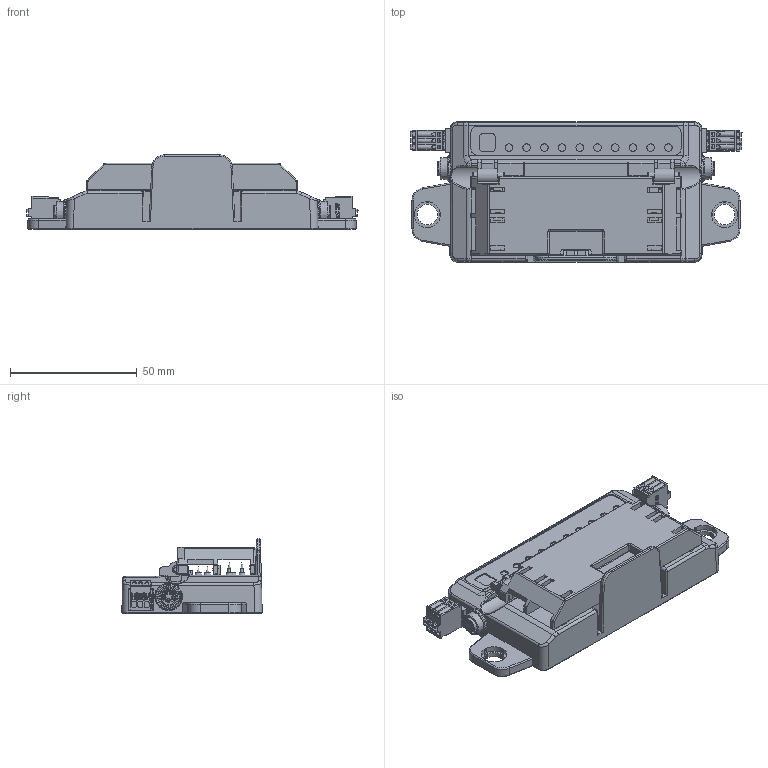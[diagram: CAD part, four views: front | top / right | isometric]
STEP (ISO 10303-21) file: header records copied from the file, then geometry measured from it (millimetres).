
FILE_DESCRIPTION(/* description */ (''),/* implementation_level */ '2;1');
FILE_NAME(/* name */ '内驱IP20-4.2.stp',/* time_stamp */ '2026-03-31T09:53:10+08:00',/* author */ (''),/* organization */ (''),/* preprocessor_version */ 'ST-DEVELOPER v19.4',/* originating_system */ 'SIEMENS PLM Software NX2212.7001',/* authorisation */ '');
FILE_SCHEMA (('AUTOMOTIVE_DESIGN { 1 0 10303 214 3 1 1 1 }'));
Products named in the file (1): 内驱IP20-4.2_stp_objects
Bounding box: 131.17 x 55.48 x 29.3 mm (x, y, z)
Volume: 91854.6 mm3; surface area: 38484 mm2
Topology: 12 solids, 22 shells, 2976 faces, 8058 edges, 5277 vertices
Faces by surface type: plane 1808, cylinder 884, cone 114, torus 58, extrusion 48, bspline 46, sphere 18
Full cylindrical faces by diameter (mm): 0.8 x10, 1 x10, 1.06 x10, 1.1 x10, 1.25 x4, 1.3 x10, 1.7 x4, 2.95 x2, 3 x10, 7.15 x2, 7.2 x4, 8.8 x2, 8.85 x2, 9 x2, 10.4 x2
Entity records: 95885 total; most frequent: CARTESIAN_POINT 23065, ORIENTED_EDGE 15582, DIRECTION 13592, EDGE_CURVE 7791, VERTEX_POINT 5198, VECTOR 5166, LINE 5118, AXIS2_PLACEMENT_3D 4213
